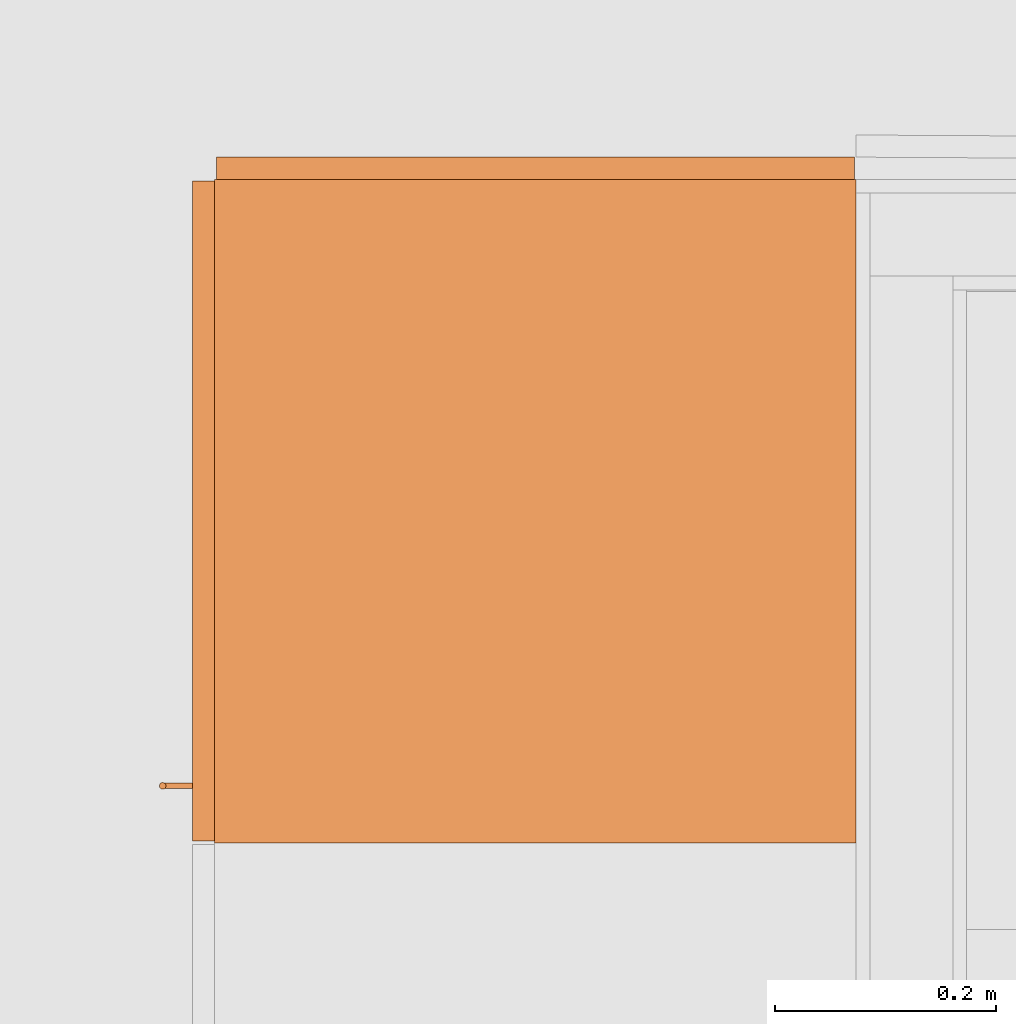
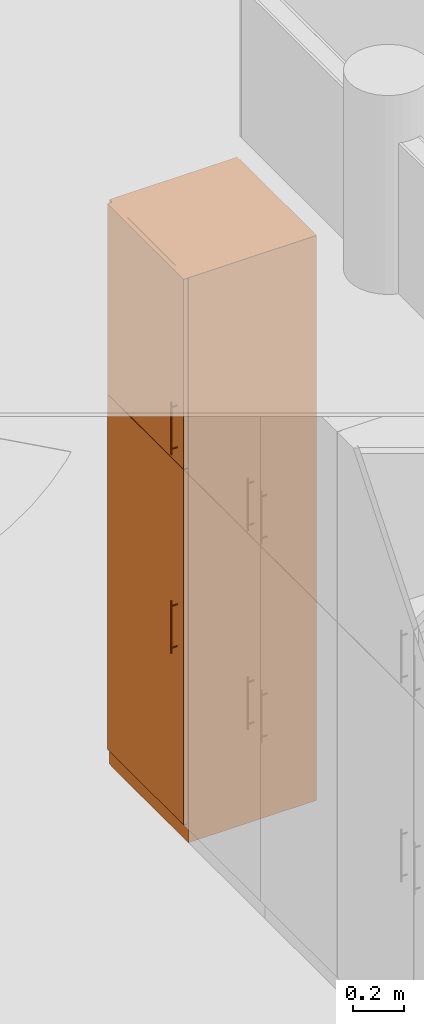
# One storey, part 88 of 167: 1 proxy.
"""IFC2X3 building model written with IfcOpenShell, lengths in millimetres."""

from ifc_helpers import new_model, entity, si_unit, converted_unit, derived_unit, money_unit, direction, frame, origin_with_axes, place, context, subcontext, project, spatial, open_shell, faceted_brep, surface_model, source, transform, mapped, type_object, type_shapes, element, save


model = new_model("IFC2X3")

# Units and contexts
model_context = context("Model", 3, precision=0.01, world=origin_with_axes(), true_north=direction((0.0, 1.0)))
plan_context = context("Plan", 3, precision=0.01, world=origin_with_axes(), true_north=direction((0.0, 1.0)))
body_context = subcontext(model_context, "Body", "Model", "MODEL_VIEW")
ifc_project = project(units=[si_unit("LENGTHUNIT", "METRE", prefix="MILLI"), si_unit("AREAUNIT", "SQUARE_METRE"), si_unit("VOLUMEUNIT", "CUBIC_METRE"), converted_unit("PLANEANGLEUNIT", "DEGREE", entity("IfcPlaneAngleMeasure", 0.0174532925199), si_unit("PLANEANGLEUNIT", "RADIAN"), dimensions=[0, 0, 0, 0, 0, 0, 0]), si_unit("SOLIDANGLEUNIT", "STERADIAN"), money_unit("EUR"), converted_unit("TIMEUNIT", "Year", entity("IfcTimeMeasure", 31556926.0), si_unit("TIMEUNIT", "SECOND"), dimensions=[0, 0, 1, 0, 0, 0, 0]), si_unit("MASSUNIT", "GRAM", prefix="KILO"), si_unit("THERMODYNAMICTEMPERATUREUNIT", "DEGREE_CELSIUS"), si_unit("LUMINOUSINTENSITYUNIT", "LUMEN"), si_unit("ENERGYUNIT", "JOULE", prefix="MEGA"), derived_unit("THERMALCONDUCTANCEUNIT", [(si_unit("POWERUNIT", "WATT"), 1), (si_unit("LENGTHUNIT", "METRE"), -1), (si_unit("THERMODYNAMICTEMPERATUREUNIT", "KELVIN"), -1)]), derived_unit("SPECIFICHEATCAPACITYUNIT", [(si_unit("ENERGYUNIT", "JOULE"), 1), (si_unit("MASSUNIT", "GRAM", prefix="KILO"), -1), (si_unit("THERMODYNAMICTEMPERATUREUNIT", "KELVIN"), -1)]), derived_unit("MASSDENSITYUNIT", [(si_unit("MASSUNIT", "GRAM", prefix="KILO"), 1), (si_unit("VOLUMEUNIT", "CUBIC_METRE"), -1)])], contexts=[model_context, plan_context])

# Site, building, storey
site_placement = place(None, origin_with_axes())
site = spatial("IfcSite", under=ifc_project, at=site_placement, Name="Site", CompositionType="ELEMENT")
building_placement = place(site_placement, origin_with_axes())
building = spatial("IfcBuilding", under=site, at=building_placement, Name="Naam gebouw", CompositionType="ELEMENT")
storey_placement = place(building_placement, origin_with_axes())
storey = spatial("IfcBuildingStorey", under=building, at=storey_placement, Name="Begane grond", CompositionType="ELEMENT", Elevation=0.0)

# Proxy
building_element_proxy_type = type_object("IfcBuildingElementProxyType", Name="Kast hoog 1D 24", PredefinedType="NOTDEFINED")
shared_shape = source(origin_with_axes(), body_context, "Body", "SurfaceModel", [
    faceted_brep([(40.0, 20.0, 1780.0), (600.0, 20.0, 1780.0), (600.0, 20.0, 1800.0), (40.0, 20.0, 1800.0), (40.0, 580.0, 1780.0), (600.0, 580.0, 1780.0), (600.0, 580.0, 1800.0), (40.0, 580.0, 1800.0)], [[[0, 1, 2, 3]], [[0, 4, 5, 1]], [[1, 5, 6, 2]], [[3, 2, 6, 7]], [[4, 0, 3, 7]], [[5, 4, 7, 6]]]),
    faceted_brep([(20.0, 20.0, 0.0), (620.0, 20.0, 0.0), (620.0, 20.0, 90.0), (20.0, 20.0, 90.0), (20.0, 600.0, 0.0), (620.0, 600.0, 0.0), (620.0, 600.0, 90.0), (20.0, 600.0, 90.0)], [[[0, 1, 2, 3]], [[0, 4, 5, 1]], [[1, 5, 6, 2]], [[3, 2, 6, 7]], [[4, 0, 3, 7]], [[5, 4, 7, 6]]]),
    faceted_brep([(20.0, 20.0, 2680.0), (40.0, 20.0, 2680.0), (40.0, 20.0, 2700.0), (20.0, 20.0, 2700.0), (20.0, 600.0, 2680.0), (40.0, 600.0, 2680.0), (600.0, 600.0, 2680.0), (620.0, 600.0, 2680.0), (620.0, 20.0, 2680.0), (600.0, 20.0, 2680.0), (600.0, 20.0, 2700.0), (620.0, 20.0, 2700.0), (620.0, 600.0, 2700.0), (600.0, 600.0, 2700.0), (40.0, 600.0, 2700.0), (20.0, 600.0, 2700.0)], [[[0, 1, 2, 3]], [[0, 4, 5, 6, 7, 8, 9, 1]], [[1, 9, 10, 2]], [[3, 2, 10, 11, 12, 13, 14, 15]], [[4, 0, 3, 15]], [[5, 4, 15, 14]], [[6, 5, 14, 13]], [[7, 6, 13, 12]], [[8, 7, 12, 11]], [[9, 8, 11, 10]]]),
    faceted_brep([(20.0, 20.0, 90.0), (40.0, 20.0, 90.0), (40.0, 20.0, 110.0), (20.0, 20.0, 110.0), (20.0, 600.0, 90.0), (40.0, 600.0, 90.0), (600.0, 600.0, 90.0), (620.0, 600.0, 90.0), (620.0, 20.0, 90.0), (600.0, 20.0, 90.0), (600.0, 20.0, 110.0), (620.0, 20.0, 110.0), (620.0, 600.0, 110.0), (600.0, 600.0, 110.0), (40.0, 600.0, 110.0), (20.0, 600.0, 110.0)], [[[0, 1, 2, 3]], [[0, 4, 5, 6, 7, 8, 9, 1]], [[1, 9, 10, 2]], [[3, 2, 10, 11, 12, 13, 14, 15]], [[4, 0, 3, 15]], [[5, 4, 15, 14]], [[6, 5, 14, 13]], [[7, 6, 13, 12]], [[8, 7, 12, 11]], [[9, 8, 11, 10]]]),
    faceted_brep([(20.0, 20.0, 110.0), (40.0, 20.0, 110.0), (40.0, 20.0, 2680.0), (20.0, 20.0, 2680.0), (20.0, 600.0, 110.0), (620.0, 600.0, 110.0), (620.0, 20.0, 110.0), (600.0, 20.0, 110.0), (600.0, 580.0, 110.0), (40.0, 580.0, 110.0), (40.0, 580.0, 2680.0), (600.0, 580.0, 2680.0), (600.0, 20.0, 2680.0), (620.0, 20.0, 2680.0), (620.0, 600.0, 2680.0), (20.0, 600.0, 2680.0)], [[[0, 1, 2, 3]], [[0, 4, 5, 6, 7, 8, 9, 1]], [[1, 9, 10, 2]], [[3, 2, 10, 11, 12, 13, 14, 15]], [[4, 0, 3, 15]], [[5, 4, 15, 14]], [[6, 5, 14, 13]], [[7, 6, 13, 12]], [[8, 7, 12, 11]], [[9, 8, 11, 10]]]),
    faceted_brep([(600.0, 20.0, 414.0), (600.0, 580.0, 414.0), (600.0, 580.0, 434.0), (600.0, 20.0, 434.0), (40.0, 20.0, 414.0), (40.0, 580.0, 414.0), (40.0, 580.0, 434.0), (40.0, 20.0, 434.0)], [[[0, 1, 2, 3]], [[0, 4, 5, 1]], [[1, 5, 6, 2]], [[3, 2, 6, 7]], [[4, 0, 3, 7]], [[5, 4, 7, 6]]]),
    faceted_brep([(600.0, 20.0, 758.0), (600.0, 580.0, 758.0), (600.0, 580.0, 778.0), (600.0, 20.0, 778.0), (40.0, 20.0, 758.0), (40.0, 580.0, 758.0), (40.0, 580.0, 778.0), (40.0, 20.0, 778.0)], [[[0, 1, 2, 3]], [[0, 4, 5, 1]], [[1, 5, 6, 2]], [[3, 2, 6, 7]], [[4, 0, 3, 7]], [[5, 4, 7, 6]]]),
    faceted_brep([(600.0, 20.0, 1102.0), (600.0, 580.0, 1102.0), (600.0, 580.0, 1122.0), (600.0, 20.0, 1122.0), (40.0, 20.0, 1102.0), (40.0, 580.0, 1102.0), (40.0, 580.0, 1122.0), (40.0, 20.0, 1122.0)], [[[0, 1, 2, 3]], [[0, 4, 5, 1]], [[1, 5, 6, 2]], [[3, 2, 6, 7]], [[4, 0, 3, 7]], [[5, 4, 7, 6]]]),
    faceted_brep([(600.0, 20.0, 1446.0), (600.0, 580.0, 1446.0), (600.0, 580.0, 1466.0), (600.0, 20.0, 1466.0), (40.0, 20.0, 1446.0), (40.0, 580.0, 1446.0), (40.0, 580.0, 1466.0), (40.0, 20.0, 1466.0)], [[[0, 1, 2, 3]], [[0, 4, 5, 1]], [[1, 5, 6, 2]], [[3, 2, 6, 7]], [[4, 0, 3, 7]], [[5, 4, 7, 6]]]),
    faceted_brep([(21.5, 20.0, 91.5), (618.5, 20.0, 91.5), (618.5, 0.0, 91.5), (21.5, 0.0, 91.5), (21.5, 20.0, 1788.5), (618.5, 20.0, 1788.5), (618.5, 0.0, 1788.5), (21.5, 0.0, 1788.5)], [[[0, 1, 2, 3]], [[0, 4, 5, 1]], [[1, 5, 6, 2]], [[3, 2, 6, 7]], [[4, 0, 3, 7]], [[5, 4, 7, 6]]]),
    faceted_brep([(571.397777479, -27.7764571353, 891.5), (571.098076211, -28.5, 891.5), (570.621320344, -29.1213203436, 891.5), (570.0, -29.5980762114, 891.5), (569.276457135, -29.8977774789, 891.5), (568.5, -30.0, 891.5), (567.723542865, -29.8977774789, 891.5), (567.0, -29.5980762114, 891.5), (566.378679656, -29.1213203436, 891.5), (565.901923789, -28.5, 891.5), (565.602222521, -27.7764571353, 891.5), (565.5, -27.0, 891.5), (565.602222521, -26.2235428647, 891.5), (565.901923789, -25.5, 891.5), (566.378679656, -24.8786796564, 891.5), (567.0, -24.4019237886, 891.5), (567.723542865, -24.1022225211, 891.5), (568.5, -24.0, 891.5), (569.276457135, -24.1022225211, 891.5), (570.0, -24.4019237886, 891.5), (570.621320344, -24.8786796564, 891.5), (571.098076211, -25.5, 891.5), (571.397777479, -26.2235428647, 891.5), (571.5, -27.0, 891.5), (571.397777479, -27.7764571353, 1141.5), (571.098076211, -28.5, 1141.5), (570.621320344, -29.1213203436, 1141.5), (570.0, -29.5980762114, 1141.5), (569.276457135, -29.8977774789, 1141.5), (568.5, -30.0, 1141.5), (567.723542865, -29.8977774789, 1141.5), (567.0, -29.5980762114, 1141.5), (566.378679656, -29.1213203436, 1141.5), (565.901923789, -28.5, 1141.5), (565.602222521, -27.7764571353, 1141.5), (565.5, -27.0, 1141.5), (565.602222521, -26.2235428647, 1141.5), (565.901923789, -25.5, 1141.5), (566.378679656, -24.8786796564, 1141.5), (567.0, -24.4019237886, 1141.5), (567.723542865, -24.1022225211, 1141.5), (568.5, -24.0, 1141.5), (569.276457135, -24.1022225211, 1141.5), (570.0, -24.4019237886, 1141.5), (570.621320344, -24.8786796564, 1141.5), (571.098076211, -25.5, 1141.5), (571.397777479, -26.2235428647, 1141.5), (571.5, -27.0, 1141.5)], [[[0, 1, 2, 3, 4, 5, 6, 7, 8, 9, 10, 11, 12, 13, 14, 15, 16, 17, 18, 19, 20, 21, 22, 23]], [[1, 0, 24, 25]], [[2, 1, 25, 26]], [[3, 2, 26, 27]], [[4, 3, 27, 28]], [[5, 4, 28, 29]], [[6, 5, 29, 30]], [[7, 6, 30, 31]], [[8, 7, 31, 32]], [[9, 8, 32, 33]], [[10, 9, 33, 34]], [[11, 10, 34, 35]], [[12, 11, 35, 36]], [[13, 12, 36, 37]], [[14, 13, 37, 38]], [[15, 14, 38, 39]], [[16, 15, 39, 40]], [[17, 16, 40, 41]], [[18, 17, 41, 42]], [[19, 18, 42, 43]], [[20, 19, 43, 44]], [[21, 20, 44, 45]], [[22, 21, 45, 46]], [[23, 22, 46, 47]], [[0, 23, 47, 24]], [[24, 47, 46, 45, 44, 43, 42, 41, 40, 39, 38, 37, 36, 35, 34, 33, 32, 31, 30, 29, 28, 27, 26, 25]]]),
    surface_model("IfcShellBasedSurfaceModel", [(569.147047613, -24.070609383, 914.085185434), (568.5, -24.0, 914.0), (568.5, 0.0, 914.0), (569.147047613, 0.0, 914.085185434), (567.852952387, -24.070609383, 914.085185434), (567.852952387, 0.0, 914.085185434), (567.25, 0.0, 914.334936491), (566.732233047, 0.0, 914.732233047), (566.334936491, 0.0, 915.25), (566.085185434, 0.0, 915.852952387), (566.0, 0.0, 916.5), (566.085185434, 0.0, 917.147047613), (566.334936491, 0.0, 917.75), (566.732233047, 0.0, 918.267766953), (567.25, 0.0, 918.665063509), (567.852952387, 0.0, 918.914814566), (568.5, 0.0, 919.0), (569.147047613, 0.0, 918.914814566), (569.75, 0.0, 918.665063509), (570.267766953, 0.0, 918.267766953), (570.665063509, 0.0, 917.75), (570.914814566, 0.0, 917.147047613), (571.0, 0.0, 916.5), (570.914814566, 0.0, 915.852952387), (570.665063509, 0.0, 915.25), (570.267766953, 0.0, 914.732233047), (569.75, 0.0, 914.334936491), (569.75, -24.2728219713, 914.334936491), (567.25, -24.2728219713, 914.334936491), (566.732233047, -24.5761600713, 914.732233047), (566.334936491, -24.9233440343, 915.25), (566.085185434, -25.2199239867, 915.852952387), (566.0, -25.3416876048, 916.5), (566.085185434, -25.2199239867, 917.147047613), (566.334936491, -24.9233440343, 917.75), (566.732233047, -24.5761600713, 918.267766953), (567.25, -24.2728219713, 918.665063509), (567.852952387, -24.070609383, 918.914814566), (568.5, -24.0, 919.0), (569.147047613, -24.070609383, 918.914814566), (569.75, -24.2728219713, 918.665063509), (570.267766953, -24.5761600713, 918.267766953), (570.665063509, -24.9233440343, 917.75), (570.914814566, -25.2199239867, 917.147047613), (571.0, -25.3416876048, 916.5), (570.914814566, -25.2199239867, 915.852952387), (570.665063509, -24.9233440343, 915.25), (570.267766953, -24.5761600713, 914.732233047)], [open_shell([[[0, 1, 2, 3]], [[1, 4, 5, 2]], [[3, 2, 5, 6, 7, 8, 9, 10, 11, 12, 13, 14, 15, 16, 17, 18, 19, 20, 21, 22, 23, 24, 25, 26]], [[27, 0, 3, 26]], [[4, 28, 6, 5]], [[28, 29, 7, 6]], [[29, 30, 8, 7]], [[30, 31, 9, 8]], [[31, 32, 10, 9]], [[32, 33, 11, 10]], [[33, 34, 12, 11]], [[34, 35, 13, 12]], [[35, 36, 14, 13]], [[36, 37, 15, 14]], [[37, 38, 16, 15]], [[38, 39, 17, 16]], [[39, 40, 18, 17]], [[40, 41, 19, 18]], [[41, 42, 20, 19]], [[42, 43, 21, 20]], [[43, 44, 22, 21]], [[44, 45, 23, 22]], [[45, 46, 24, 23]], [[46, 47, 25, 24]], [[47, 27, 26, 25]]])]),
    surface_model("IfcShellBasedSurfaceModel", [(569.147047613, -24.070609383, 1114.08518543), (568.5, -24.0, 1114.0), (568.5, 0.0, 1114.0), (569.147047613, 0.0, 1114.08518543), (567.852952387, -24.070609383, 1114.08518543), (567.852952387, 0.0, 1114.08518543), (567.25, 0.0, 1114.33493649), (566.732233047, 0.0, 1114.73223305), (566.334936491, 0.0, 1115.25), (566.085185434, 0.0, 1115.85295239), (566.0, 0.0, 1116.5), (566.085185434, 0.0, 1117.14704761), (566.334936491, 0.0, 1117.75), (566.732233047, 0.0, 1118.26776695), (567.25, 0.0, 1118.66506351), (567.852952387, 0.0, 1118.91481457), (568.5, 0.0, 1119.0), (569.147047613, 0.0, 1118.91481457), (569.75, 0.0, 1118.66506351), (570.267766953, 0.0, 1118.26776695), (570.665063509, 0.0, 1117.75), (570.914814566, 0.0, 1117.14704761), (571.0, 0.0, 1116.5), (570.914814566, 0.0, 1115.85295239), (570.665063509, 0.0, 1115.25), (570.267766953, 0.0, 1114.73223305), (569.75, 0.0, 1114.33493649), (569.75, -24.2728219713, 1114.33493649), (567.25, -24.2728219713, 1114.33493649), (566.732233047, -24.5761600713, 1114.73223305), (566.334936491, -24.9233440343, 1115.25), (566.085185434, -25.2199239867, 1115.85295239), (566.0, -25.3416876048, 1116.5), (566.085185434, -25.2199239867, 1117.14704761), (566.334936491, -24.9233440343, 1117.75), (566.732233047, -24.5761600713, 1118.26776695), (567.25, -24.2728219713, 1118.66506351), (567.852952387, -24.070609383, 1118.91481457), (568.5, -24.0, 1119.0), (569.147047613, -24.070609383, 1118.91481457), (569.75, -24.2728219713, 1118.66506351), (570.267766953, -24.5761600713, 1118.26776695), (570.665063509, -24.9233440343, 1117.75), (570.914814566, -25.2199239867, 1117.14704761), (571.0, -25.3416876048, 1116.5), (570.914814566, -25.2199239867, 1115.85295239), (570.665063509, -24.9233440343, 1115.25), (570.267766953, -24.5761600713, 1114.73223305)], [open_shell([[[0, 1, 2, 3]], [[1, 4, 5, 2]], [[3, 2, 5, 6, 7, 8, 9, 10, 11, 12, 13, 14, 15, 16, 17, 18, 19, 20, 21, 22, 23, 24, 25, 26]], [[27, 0, 3, 26]], [[4, 28, 6, 5]], [[28, 29, 7, 6]], [[29, 30, 8, 7]], [[30, 31, 9, 8]], [[31, 32, 10, 9]], [[32, 33, 11, 10]], [[33, 34, 12, 11]], [[34, 35, 13, 12]], [[35, 36, 14, 13]], [[36, 37, 15, 14]], [[37, 38, 16, 15]], [[38, 39, 17, 16]], [[39, 40, 18, 17]], [[40, 41, 19, 18]], [[41, 42, 20, 19]], [[42, 43, 21, 20]], [[43, 44, 22, 21]], [[44, 45, 23, 22]], [[45, 46, 24, 23]], [[46, 47, 25, 24]], [[47, 27, 26, 25]]])]),
    faceted_brep([(21.5, 20.0, 1791.5), (618.5, 20.0, 1791.5), (618.5, 0.0, 1791.5), (21.5, 0.0, 1791.5), (21.5, 20.0, 2698.5), (618.5, 20.0, 2698.5), (618.5, 0.0, 2698.5), (21.5, 0.0, 2698.5)], [[[0, 1, 2, 3]], [[0, 4, 5, 1]], [[1, 5, 6, 2]], [[3, 2, 6, 7]], [[4, 0, 3, 7]], [[5, 4, 7, 6]]]),
    faceted_brep([(571.397777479, -27.7764571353, 1841.5), (571.098076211, -28.5, 1841.5), (570.621320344, -29.1213203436, 1841.5), (570.0, -29.5980762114, 1841.5), (569.276457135, -29.8977774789, 1841.5), (568.5, -30.0, 1841.5), (567.723542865, -29.8977774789, 1841.5), (567.0, -29.5980762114, 1841.5), (566.378679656, -29.1213203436, 1841.5), (565.901923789, -28.5, 1841.5), (565.602222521, -27.7764571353, 1841.5), (565.5, -27.0, 1841.5), (565.602222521, -26.2235428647, 1841.5), (565.901923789, -25.5, 1841.5), (566.378679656, -24.8786796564, 1841.5), (567.0, -24.4019237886, 1841.5), (567.723542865, -24.1022225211, 1841.5), (568.5, -24.0, 1841.5), (569.276457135, -24.1022225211, 1841.5), (570.0, -24.4019237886, 1841.5), (570.621320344, -24.8786796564, 1841.5), (571.098076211, -25.5, 1841.5), (571.397777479, -26.2235428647, 1841.5), (571.5, -27.0, 1841.5), (571.397777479, -27.7764571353, 2091.5), (571.098076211, -28.5, 2091.5), (570.621320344, -29.1213203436, 2091.5), (570.0, -29.5980762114, 2091.5), (569.276457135, -29.8977774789, 2091.5), (568.5, -30.0, 2091.5), (567.723542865, -29.8977774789, 2091.5), (567.0, -29.5980762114, 2091.5), (566.378679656, -29.1213203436, 2091.5), (565.901923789, -28.5, 2091.5), (565.602222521, -27.7764571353, 2091.5), (565.5, -27.0, 2091.5), (565.602222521, -26.2235428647, 2091.5), (565.901923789, -25.5, 2091.5), (566.378679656, -24.8786796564, 2091.5), (567.0, -24.4019237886, 2091.5), (567.723542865, -24.1022225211, 2091.5), (568.5, -24.0, 2091.5), (569.276457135, -24.1022225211, 2091.5), (570.0, -24.4019237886, 2091.5), (570.621320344, -24.8786796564, 2091.5), (571.098076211, -25.5, 2091.5), (571.397777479, -26.2235428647, 2091.5), (571.5, -27.0, 2091.5)], [[[0, 1, 2, 3, 4, 5, 6, 7, 8, 9, 10, 11, 12, 13, 14, 15, 16, 17, 18, 19, 20, 21, 22, 23]], [[1, 0, 24, 25]], [[2, 1, 25, 26]], [[3, 2, 26, 27]], [[4, 3, 27, 28]], [[5, 4, 28, 29]], [[6, 5, 29, 30]], [[7, 6, 30, 31]], [[8, 7, 31, 32]], [[9, 8, 32, 33]], [[10, 9, 33, 34]], [[11, 10, 34, 35]], [[12, 11, 35, 36]], [[13, 12, 36, 37]], [[14, 13, 37, 38]], [[15, 14, 38, 39]], [[16, 15, 39, 40]], [[17, 16, 40, 41]], [[18, 17, 41, 42]], [[19, 18, 42, 43]], [[20, 19, 43, 44]], [[21, 20, 44, 45]], [[22, 21, 45, 46]], [[23, 22, 46, 47]], [[0, 23, 47, 24]], [[24, 47, 46, 45, 44, 43, 42, 41, 40, 39, 38, 37, 36, 35, 34, 33, 32, 31, 30, 29, 28, 27, 26, 25]]]),
    surface_model("IfcShellBasedSurfaceModel", [(569.147047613, -24.070609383, 1864.08518543), (568.5, -24.0, 1864.0), (568.5, 0.0, 1864.0), (569.147047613, 0.0, 1864.08518543), (567.852952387, -24.070609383, 1864.08518543), (567.852952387, 0.0, 1864.08518543), (567.25, 0.0, 1864.33493649), (566.732233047, 0.0, 1864.73223305), (566.334936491, 0.0, 1865.25), (566.085185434, 0.0, 1865.85295239), (566.0, 0.0, 1866.5), (566.085185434, 0.0, 1867.14704761), (566.334936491, 0.0, 1867.75), (566.732233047, 0.0, 1868.26776695), (567.25, 0.0, 1868.66506351), (567.852952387, 0.0, 1868.91481457), (568.5, 0.0, 1869.0), (569.147047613, 0.0, 1868.91481457), (569.75, 0.0, 1868.66506351), (570.267766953, 0.0, 1868.26776695), (570.665063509, 0.0, 1867.75), (570.914814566, 0.0, 1867.14704761), (571.0, 0.0, 1866.5), (570.914814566, 0.0, 1865.85295239), (570.665063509, 0.0, 1865.25), (570.267766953, 0.0, 1864.73223305), (569.75, 0.0, 1864.33493649), (569.75, -24.2728219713, 1864.33493649), (567.25, -24.2728219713, 1864.33493649), (566.732233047, -24.5761600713, 1864.73223305), (566.334936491, -24.9233440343, 1865.25), (566.085185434, -25.2199239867, 1865.85295239), (566.0, -25.3416876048, 1866.5), (566.085185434, -25.2199239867, 1867.14704761), (566.334936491, -24.9233440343, 1867.75), (566.732233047, -24.5761600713, 1868.26776695), (567.25, -24.2728219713, 1868.66506351), (567.852952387, -24.070609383, 1868.91481457), (568.5, -24.0, 1869.0), (569.147047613, -24.070609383, 1868.91481457), (569.75, -24.2728219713, 1868.66506351), (570.267766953, -24.5761600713, 1868.26776695), (570.665063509, -24.9233440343, 1867.75), (570.914814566, -25.2199239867, 1867.14704761), (571.0, -25.3416876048, 1866.5), (570.914814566, -25.2199239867, 1865.85295239), (570.665063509, -24.9233440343, 1865.25), (570.267766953, -24.5761600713, 1864.73223305)], [open_shell([[[0, 1, 2, 3]], [[1, 4, 5, 2]], [[3, 2, 5, 6, 7, 8, 9, 10, 11, 12, 13, 14, 15, 16, 17, 18, 19, 20, 21, 22, 23, 24, 25, 26]], [[27, 0, 3, 26]], [[4, 28, 6, 5]], [[28, 29, 7, 6]], [[29, 30, 8, 7]], [[30, 31, 9, 8]], [[31, 32, 10, 9]], [[32, 33, 11, 10]], [[33, 34, 12, 11]], [[34, 35, 13, 12]], [[35, 36, 14, 13]], [[36, 37, 15, 14]], [[37, 38, 16, 15]], [[38, 39, 17, 16]], [[39, 40, 18, 17]], [[40, 41, 19, 18]], [[41, 42, 20, 19]], [[42, 43, 21, 20]], [[43, 44, 22, 21]], [[44, 45, 23, 22]], [[45, 46, 24, 23]], [[46, 47, 25, 24]], [[47, 27, 26, 25]]])]),
    surface_model("IfcShellBasedSurfaceModel", [(569.147047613, -24.070609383, 2064.08518543), (568.5, -24.0, 2064.0), (568.5, 0.0, 2064.0), (569.147047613, 0.0, 2064.08518543), (567.852952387, -24.070609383, 2064.08518543), (567.852952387, 0.0, 2064.08518543), (567.25, 0.0, 2064.33493649), (566.732233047, 0.0, 2064.73223305), (566.334936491, 0.0, 2065.25), (566.085185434, 0.0, 2065.85295239), (566.0, 0.0, 2066.5), (566.085185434, 0.0, 2067.14704761), (566.334936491, 0.0, 2067.75), (566.732233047, 0.0, 2068.26776695), (567.25, 0.0, 2068.66506351), (567.852952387, 0.0, 2068.91481457), (568.5, 0.0, 2069.0), (569.147047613, 0.0, 2068.91481457), (569.75, 0.0, 2068.66506351), (570.267766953, 0.0, 2068.26776695), (570.665063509, 0.0, 2067.75), (570.914814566, 0.0, 2067.14704761), (571.0, 0.0, 2066.5), (570.914814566, 0.0, 2065.85295239), (570.665063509, 0.0, 2065.25), (570.267766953, 0.0, 2064.73223305), (569.75, 0.0, 2064.33493649), (569.75, -24.2728219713, 2064.33493649), (567.25, -24.2728219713, 2064.33493649), (566.732233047, -24.5761600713, 2064.73223305), (566.334936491, -24.9233440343, 2065.25), (566.085185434, -25.2199239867, 2065.85295239), (566.0, -25.3416876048, 2066.5), (566.085185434, -25.2199239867, 2067.14704761), (566.334936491, -24.9233440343, 2067.75), (566.732233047, -24.5761600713, 2068.26776695), (567.25, -24.2728219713, 2068.66506351), (567.852952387, -24.070609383, 2068.91481457), (568.5, -24.0, 2069.0), (569.147047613, -24.070609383, 2068.91481457), (569.75, -24.2728219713, 2068.66506351), (570.267766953, -24.5761600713, 2068.26776695), (570.665063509, -24.9233440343, 2067.75), (570.914814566, -25.2199239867, 2067.14704761), (571.0, -25.3416876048, 2066.5), (570.914814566, -25.2199239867, 2065.85295239), (570.665063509, -24.9233440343, 2065.25), (570.267766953, -24.5761600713, 2064.73223305)], [open_shell([[[0, 1, 2, 3]], [[1, 4, 5, 2]], [[3, 2, 5, 6, 7, 8, 9, 10, 11, 12, 13, 14, 15, 16, 17, 18, 19, 20, 21, 22, 23, 24, 25, 26]], [[27, 0, 3, 26]], [[4, 28, 6, 5]], [[28, 29, 7, 6]], [[29, 30, 8, 7]], [[30, 31, 9, 8]], [[31, 32, 10, 9]], [[32, 33, 11, 10]], [[33, 34, 12, 11]], [[34, 35, 13, 12]], [[35, 36, 14, 13]], [[36, 37, 15, 14]], [[37, 38, 16, 15]], [[38, 39, 17, 16]], [[39, 40, 18, 17]], [[40, 41, 19, 18]], [[41, 42, 20, 19]], [[42, 43, 21, 20]], [[43, 44, 22, 21]], [[44, 45, 23, 22]], [[45, 46, 24, 23]], [[46, 47, 25, 24]], [[47, 27, 26, 25]]])]),
    faceted_brep([(20.0, 598.5, 1.5), (20.0, 21.5, 1.5), (0.0, 21.5, 1.5), (0.0, 598.5, 1.5), (20.0, 598.5, 1788.5), (20.0, 21.5, 1788.5), (0.0, 21.5, 1788.5), (0.0, 598.5, 1788.5)], [[[0, 1, 2, 3]], [[0, 4, 5, 1]], [[1, 5, 6, 2]], [[3, 2, 6, 7]], [[4, 0, 3, 7]], [[5, 4, 7, 6]]]),
    faceted_brep([(20.0, 598.5, 1791.5), (20.0, 21.5, 1791.5), (0.0, 21.5, 1791.5), (0.0, 598.5, 1791.5), (20.0, 598.5, 2698.5), (20.0, 21.5, 2698.5), (0.0, 21.5, 2698.5), (0.0, 598.5, 2698.5)], [[[0, 1, 2, 3]], [[0, 4, 5, 1]], [[1, 5, 6, 2]], [[3, 2, 6, 7]], [[4, 0, 3, 7]], [[5, 4, 7, 6]]]),
])
type_shapes(building_element_proxy_type, [shared_shape])
proxy_placement = place(storey_placement, frame((13750.0, 8293.34783859, 0.0), z_axis=(0.0, 0.0, 1.0), x_axis=(0.0, -1.0, 0.0)))
element("IfcBuildingElementProxy", 1, at=proxy_placement, inside=storey, type_object=building_element_proxy_type, Name="__Object-x", context=body_context, shape_type="MappedRepresentation", body=[
    mapped(shared_shape, transform((0.0, 0.0, 0.0))),
])

save(model, "model.ifc")
